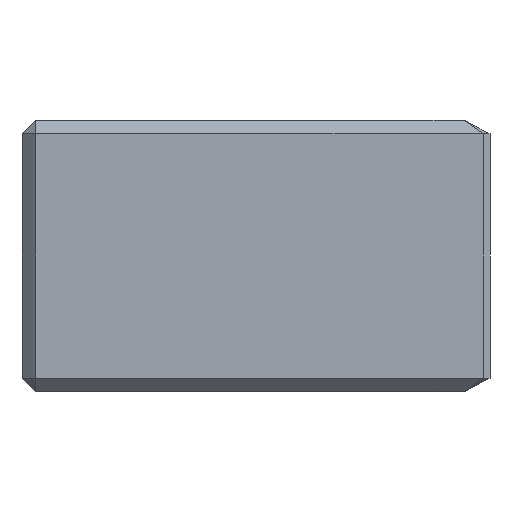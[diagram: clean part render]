
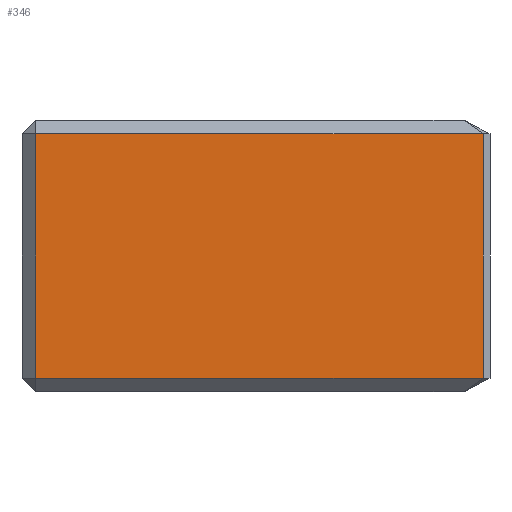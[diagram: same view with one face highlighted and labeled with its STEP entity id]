
A CAD part, front view. The second image highlights one B-rep face of the part: STEP entity #346.
In plain terms, the highlighted planar face has unit normal (0, -1, 0).
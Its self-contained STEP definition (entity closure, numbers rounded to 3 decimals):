
#11 = VECTOR ( 'NONE', #840, 1000. ) ;
#32 = ORIENTED_EDGE ( 'NONE', *, *, #538, .T. ) ;
#38 = LINE ( 'NONE', #330, #591 ) ;
#50 = CARTESIAN_POINT ( 'NONE',  ( 0.3, 0., 0.3 ) ) ;
#70 = VERTEX_POINT ( 'NONE', #815 ) ;
#126 = CARTESIAN_POINT ( 'NONE',  ( 0.3, 0., 0. ) ) ;
#178 = DIRECTION ( 'NONE',  ( 0., 0., 1. ) ) ;
#190 = VECTOR ( 'NONE', #914, 1000. ) ;
#197 = CARTESIAN_POINT ( 'NONE',  ( 10.2, 0., 6. ) ) ;
#198 = CARTESIAN_POINT ( 'NONE',  ( 0., 0., 6. ) ) ;
#221 = ORIENTED_EDGE ( 'NONE', *, *, #557, .T. ) ;
#330 = CARTESIAN_POINT ( 'NONE',  ( 0., 0., 5.7 ) ) ;
#346 = ADVANCED_FACE ( 'NONE', ( #789 ), #577, .F. ) ;
#383 = CARTESIAN_POINT ( 'NONE',  ( 10.2, 0., 5.7 ) ) ;
#449 = ORIENTED_EDGE ( 'NONE', *, *, #543, .T. ) ;
#464 = EDGE_LOOP ( 'NONE', ( #449, #517, #221, #32 ) ) ;
#484 = AXIS2_PLACEMENT_3D ( 'NONE', #198, #719, #931 ) ;
#517 = ORIENTED_EDGE ( 'NONE', *, *, #581, .T. ) ;
#538 = EDGE_CURVE ( 'NONE', #70, #595, #605, .T. ) ;
#543 = EDGE_CURVE ( 'NONE', #595, #625, #767, .T. ) ;
#557 = EDGE_CURVE ( 'NONE', #816, #70, #38, .T. ) ;
#562 = CARTESIAN_POINT ( 'NONE',  ( 10.2, 0., 0.3 ) ) ;
#577 = PLANE ( 'NONE',  #484 ) ;
#581 = EDGE_CURVE ( 'NONE', #625, #816, #623, .T. ) ;
#591 = VECTOR ( 'NONE', #772, 1000. ) ;
#595 = VERTEX_POINT ( 'NONE', #50 ) ;
#605 = LINE ( 'NONE', #126, #11 ) ;
#623 = LINE ( 'NONE', #197, #908 ) ;
#625 = VERTEX_POINT ( 'NONE', #562 ) ;
#719 = DIRECTION ( 'NONE',  ( 0., 1., 0. ) ) ;
#767 = LINE ( 'NONE', #836, #190 ) ;
#772 = DIRECTION ( 'NONE',  ( -1., 0., 0. ) ) ;
#789 = FACE_OUTER_BOUND ( 'NONE', #464, .T. ) ;
#815 = CARTESIAN_POINT ( 'NONE',  ( 0.3, 0., 5.7 ) ) ;
#816 = VERTEX_POINT ( 'NONE', #383 ) ;
#836 = CARTESIAN_POINT ( 'NONE',  ( 0., 0., 0.3 ) ) ;
#840 = DIRECTION ( 'NONE',  ( 0., 0., -1. ) ) ;
#908 = VECTOR ( 'NONE', #178, 1000. ) ;
#914 = DIRECTION ( 'NONE',  ( 1., 0., 0. ) ) ;
#931 = DIRECTION ( 'NONE',  ( 0., 0., 1. ) ) ;
